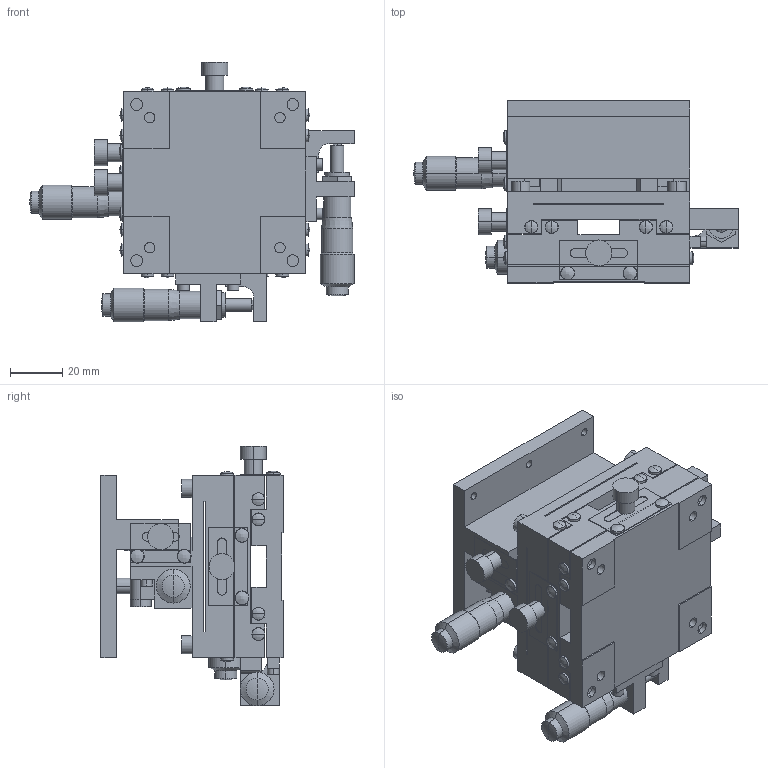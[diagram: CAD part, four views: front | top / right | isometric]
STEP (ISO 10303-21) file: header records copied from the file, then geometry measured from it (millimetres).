
FILE_DESCRIPTION (( 'STEP AP203' ), '1' );
FILE_NAME ('LT-7047-S1.STEP', '2011-08-11T09:09:24', ( '' ), ( '' ), 'SwSTEP 2.0', 'SolidWorks 2011', '' );
FILE_SCHEMA (( 'CONFIG_CONTROL_DESIGN' ));
Length unit declared in the file: millimetre
Products named in the file (7): LT-7047-S1; LT-7047-S1-6; LT-7047-S1-5; LT-7047-S1-4; LT-7047-S1-3; LT-7047-S1-2; LT-7047-S1-1
Assembly tree (6 placements, depth 2):
  LT-7047-S1
    LT-7047-S1-2
    LT-7047-S1-3
    LT-7047-S1-1
    LT-7047-S1-6
    LT-7047-S1-5
    LT-7047-S1-4
Bounding box: 124.5 x 70 x 99.8 mm (x, y, z)
Volume: 228274.6 mm3; surface area: 94343.3 mm2
Topology: 8 solids, 23 shells, 671 faces, 1603 edges, 1020 vertices
Faces by surface type: plane 311, cylinder 232, cone 74, sphere 40, bspline 8, torus 6
Entity records: 21851 total; most frequent: CARTESIAN_POINT 4968, DIRECTION 3541, ORIENTED_EDGE 3178, EDGE_CURVE 1589, AXIS2_PLACEMENT_3D 1305, VERTEX_POINT 1020, VECTOR 931, LINE 931
